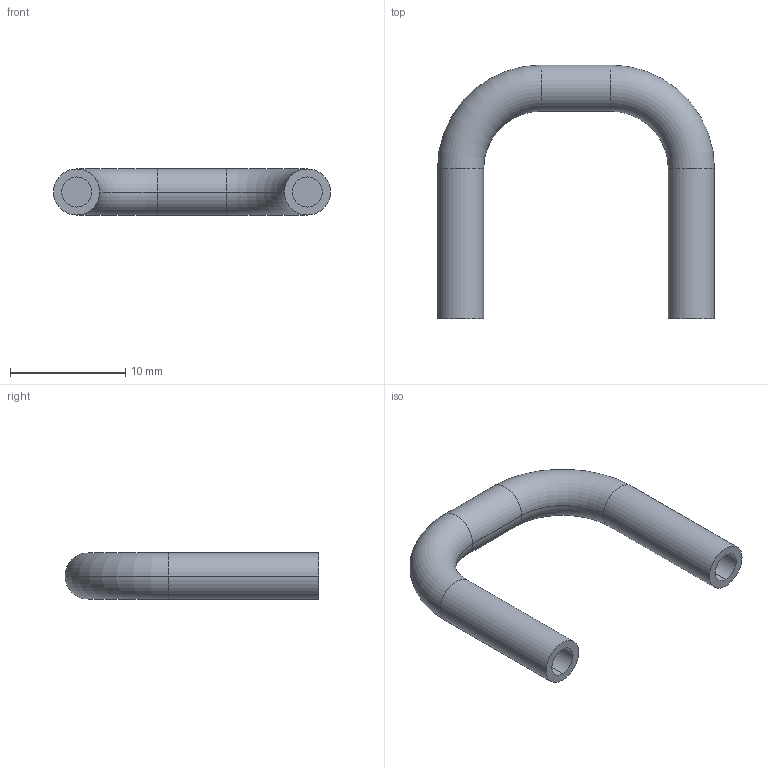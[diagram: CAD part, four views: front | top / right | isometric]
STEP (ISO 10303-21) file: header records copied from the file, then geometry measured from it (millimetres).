
FILE_DESCRIPTION (( 'STEP AP214' ), '1' );
FILE_NAME ('A84 KA-1251-1.STEP', '2012-02-22T01:56:25', ( '' ), ( '' ), 'SwSTEP 2.0', 'SolidWorks 2012', '' );
FILE_SCHEMA (( 'AUTOMOTIVE_DESIGN' ));
Length unit declared in the file: millimetre
Products named in the file (1): A84 KA-1251-1
Bounding box: 24 x 22 x 4 mm (x, y, z)
Volume: 625.4 mm3; surface area: 785.3 mm2
Topology: 1 solids, 1 shells, 18 faces, 34 edges, 20 vertices
Faces by surface type: cylinder 10, torus 4, plane 4
Entity records: 492 total; most frequent: DIRECTION 96, CARTESIAN_POINT 73, ORIENTED_EDGE 68, AXIS2_PLACEMENT_3D 43, EDGE_CURVE 34, CIRCLE 24, VERTEX_POINT 20, EDGE_LOOP 20
